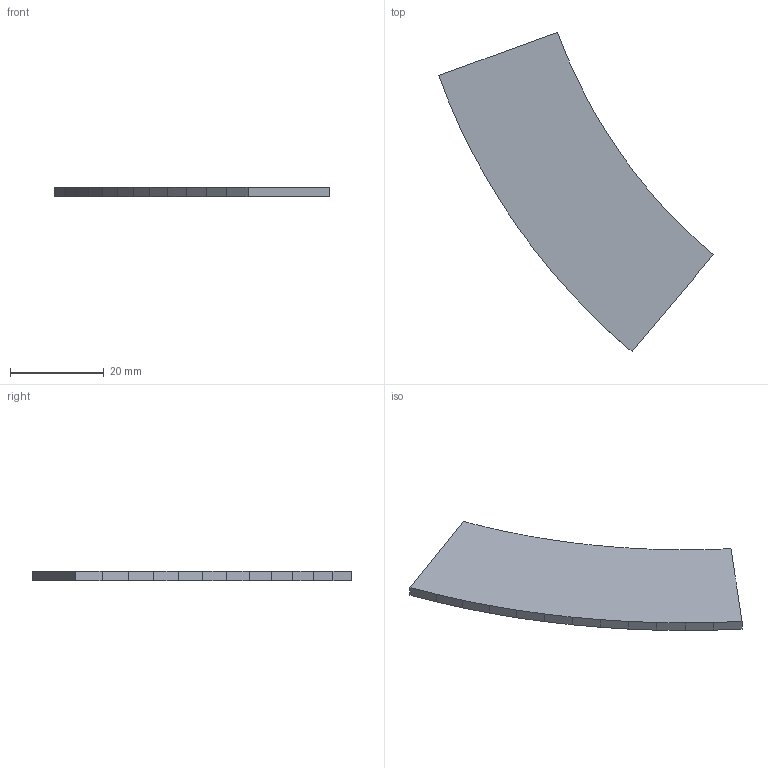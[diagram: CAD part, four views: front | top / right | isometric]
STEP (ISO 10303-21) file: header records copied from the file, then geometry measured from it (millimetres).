
FILE_DESCRIPTION(('Open CASCADE Model'),'2;1');
FILE_NAME('Open CASCADE Shape Model','2026-10-04T01:02:27',('Author'),( 'Open CASCADE'),'Open CASCADE STEP processor 8.0','Open CASCADE 8.0' ,'Unknown');
FILE_SCHEMA(('AUTOMOTIVE_DESIGN { 1 0 10303 214 1 1 1 1 }'));
Length unit declared in the file: millimetre
Products named in the file (1): Open CASCADE STEP translator 8.0 97
Bounding box: 58.63 x 68.17 x 2 mm (x, y, z)
Volume: 3547.3 mm3; surface area: 3918.1 mm2
Topology: 1 solids, 1 shells, 28 faces, 78 edges, 52 vertices
Faces by surface type: plane 28
Entity records: 1906 total; most frequent: CARTESIAN_POINT 315, DIRECTION 292, LINE 234, VECTOR 234, ORIENTED_EDGE 156, PCURVE 156, DEFINITIONAL_REPRESENTATION 156, EDGE_CURVE 78
